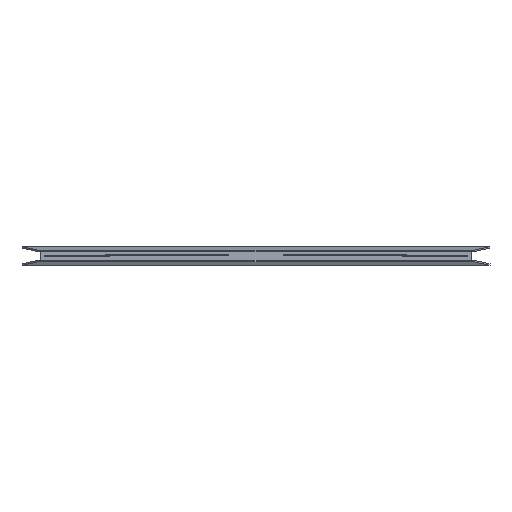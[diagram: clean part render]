
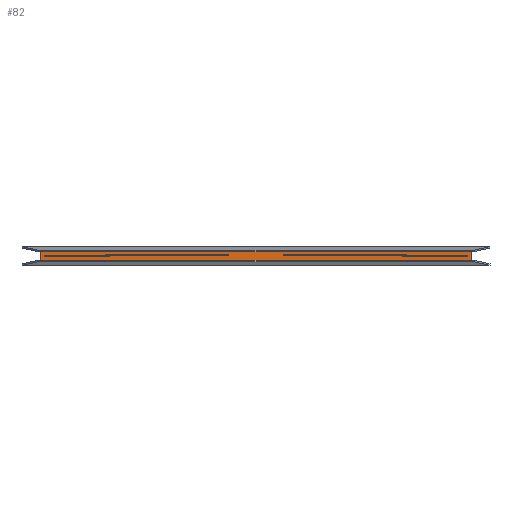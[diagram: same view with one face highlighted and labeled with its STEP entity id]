
A CAD part, top view. The second image highlights one B-rep face of the part: STEP entity #82.
In plain terms, the highlighted planar face has unit normal (0, 0, 1).
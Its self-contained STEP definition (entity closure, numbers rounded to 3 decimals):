
#82=ADVANCED_FACE('',(#160),#1076,.T.);
#160=FACE_OUTER_BOUND('',#238,.T.);
#238=EDGE_LOOP('',(#472,#473,#474,#475));
#472=ORIENTED_EDGE('',*,*,#676,.T.);
#473=ORIENTED_EDGE('',*,*,#677,.T.);
#474=ORIENTED_EDGE('',*,*,#678,.F.);
#475=ORIENTED_EDGE('',*,*,#679,.F.);
#676=EDGE_CURVE('',#988,#989,#892,.T.);
#677=EDGE_CURVE('',#989,#990,#893,.T.);
#678=EDGE_CURVE('',#991,#990,#894,.T.);
#679=EDGE_CURVE('',#988,#991,#895,.T.);
#892=B_SPLINE_CURVE_WITH_KNOTS('',1,(#2097,#2098),.UNSPECIFIED.,.F.,.F.,
(2,2),(-137.128,-116.234),.UNSPECIFIED.);
#893=B_SPLINE_CURVE_WITH_KNOTS('',1,(#2099,#2100),.UNSPECIFIED.,.F.,.F.,
(2,2),(0.,1104.),.UNSPECIFIED.);
#894=B_SPLINE_CURVE_WITH_KNOTS('',1,(#2101,#2102),.UNSPECIFIED.,.F.,.F.,
(2,2),(-137.128,-116.234),.UNSPECIFIED.);
#895=B_SPLINE_CURVE_WITH_KNOTS('',1,(#2103,#2104),.UNSPECIFIED.,.F.,.F.,
(2,2),(0.,1104.),.UNSPECIFIED.);
#988=VERTEX_POINT('',#2089);
#989=VERTEX_POINT('',#2090);
#990=VERTEX_POINT('',#2091);
#991=VERTEX_POINT('',#2092);
#1076=PLANE('',#1262);
#1262=AXIS2_PLACEMENT_3D('',#2083,#1416,$);
#1416=DIRECTION('',(0.,0.,1.));
#2083=CARTESIAN_POINT('',(552.,-10.447,0.));
#2089=CARTESIAN_POINT('',(552.,-10.447,0.));
#2090=CARTESIAN_POINT('',(552.,10.447,0.));
#2091=CARTESIAN_POINT('',(-552.,10.447,0.));
#2092=CARTESIAN_POINT('',(-552.,-10.447,0.));
#2097=CARTESIAN_POINT('',(552.,-10.447,0.));
#2098=CARTESIAN_POINT('',(552.,10.447,0.));
#2099=CARTESIAN_POINT('',(552.,10.447,0.));
#2100=CARTESIAN_POINT('',(-552.,10.447,0.));
#2101=CARTESIAN_POINT('',(-552.,-10.447,0.));
#2102=CARTESIAN_POINT('',(-552.,10.447,0.));
#2103=CARTESIAN_POINT('',(552.,-10.447,0.));
#2104=CARTESIAN_POINT('',(-552.,-10.447,0.));
